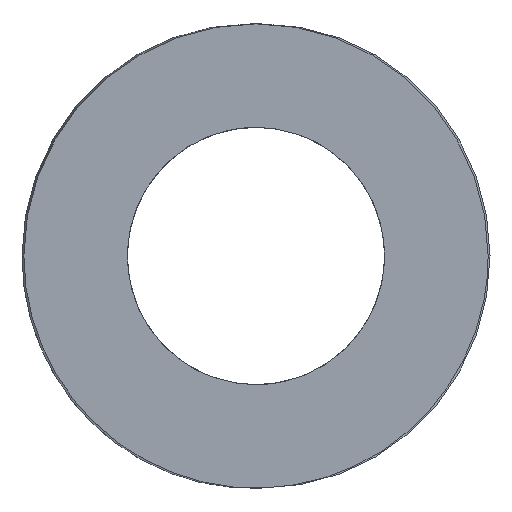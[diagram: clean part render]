
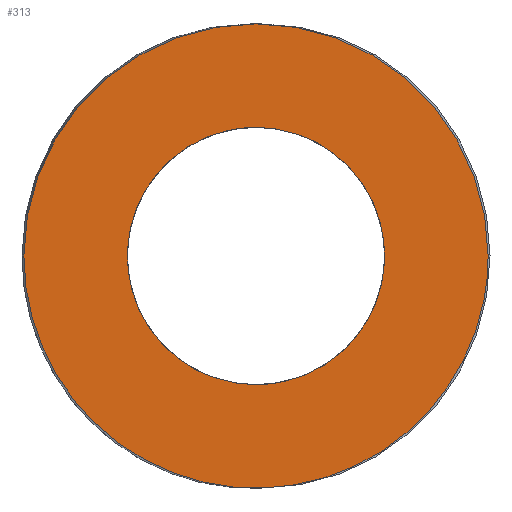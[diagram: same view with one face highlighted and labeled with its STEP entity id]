
A CAD part, left-side view. The second image highlights one B-rep face of the part: STEP entity #313.
In plain terms, the highlighted planar face has unit normal (-1, 0, 0).
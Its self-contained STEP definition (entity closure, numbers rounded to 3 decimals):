
#63=CARTESIAN_POINT('Vertex',(0.,9.2,0.)) ;
#89=CARTESIAN_POINT('Vertex',(0.,-9.2,0.)) ;
#93=CARTESIAN_POINT('Control Point',(0.,9.2,0.)) ;
#94=CARTESIAN_POINT('Control Point',(0.,9.2,-1.445)) ;
#95=CARTESIAN_POINT('Control Point',(0.,8.916,-2.89)) ;
#96=CARTESIAN_POINT('Control Point',(0.,8.348,-4.261)) ;
#97=CARTESIAN_POINT('Control Point',(0.,6.706,-6.706)) ;
#98=CARTESIAN_POINT('Control Point',(0.,4.261,-8.348)) ;
#99=CARTESIAN_POINT('Control Point',(0.,2.89,-8.916)) ;
#100=CARTESIAN_POINT('Control Point',(0.,0.,-9.484)) ;
#101=CARTESIAN_POINT('Control Point',(0.,-2.89,-8.916)) ;
#102=CARTESIAN_POINT('Control Point',(0.,-4.261,-8.348)) ;
#103=CARTESIAN_POINT('Control Point',(0.,-6.706,-6.706)) ;
#104=CARTESIAN_POINT('Control Point',(0.,-8.348,-4.261)) ;
#105=CARTESIAN_POINT('Control Point',(0.,-8.916,-2.89)) ;
#106=CARTESIAN_POINT('Control Point',(0.,-9.2,-1.445)) ;
#107=CARTESIAN_POINT('Control Point',(0.,-9.2,0.)) ;
#121=CARTESIAN_POINT('Axis2P3D Location',(0.,0.,0.)) ;
#250=CARTESIAN_POINT('Axis2P3D Location',(0.,4.6,0.)) ;
#260=CARTESIAN_POINT('Control Point',(0.,0.,-5.1)) ;
#261=CARTESIAN_POINT('Control Point',(0.,0.553,-5.1)) ;
#262=CARTESIAN_POINT('Control Point',(0.,1.106,-5.025)) ;
#263=CARTESIAN_POINT('Control Point',(0.,1.646,-4.875)) ;
#264=CARTESIAN_POINT('Control Point',(0.,2.671,-4.432)) ;
#265=CARTESIAN_POINT('Control Point',(0.,3.541,-3.733)) ;
#266=CARTESIAN_POINT('Control Point',(0.,3.926,-3.326)) ;
#267=CARTESIAN_POINT('Control Point',(0.,4.575,-2.418)) ;
#268=CARTESIAN_POINT('Control Point',(0.,4.96,-1.37)) ;
#269=CARTESIAN_POINT('Control Point',(0.,5.079,-0.822)) ;
#270=CARTESIAN_POINT('Control Point',(0.,5.167,0.291)) ;
#271=CARTESIAN_POINT('Control Point',(0.,4.955,1.387)) ;
#272=CARTESIAN_POINT('Control Point',(0.,4.775,1.917)) ;
#273=CARTESIAN_POINT('Control Point',(0.,4.275,2.916)) ;
#274=CARTESIAN_POINT('Control Point',(0.,3.528,3.745)) ;
#275=CARTESIAN_POINT('Control Point',(0.,3.1,4.106)) ;
#276=CARTESIAN_POINT('Control Point',(0.,2.255,4.642)) ;
#277=CARTESIAN_POINT('Control Point',(0.,1.309,4.959)) ;
#278=CARTESIAN_POINT('Control Point',(0.,0.877,5.053)) ;
#279=CARTESIAN_POINT('Control Point',(0.,0.439,5.1)) ;
#280=CARTESIAN_POINT('Control Point',(0.,0.,5.1)) ;
#281=CARTESIAN_POINT('Vertex',(0.,0.,-5.1)) ;
#283=CARTESIAN_POINT('Vertex',(0.,0.,5.1)) ;
#287=CARTESIAN_POINT('Control Point',(0.,0.,5.1)) ;
#288=CARTESIAN_POINT('Control Point',(0.,-0.553,5.1)) ;
#289=CARTESIAN_POINT('Control Point',(0.,-1.106,5.025)) ;
#290=CARTESIAN_POINT('Control Point',(0.,-1.646,4.875)) ;
#291=CARTESIAN_POINT('Control Point',(0.,-2.671,4.432)) ;
#292=CARTESIAN_POINT('Control Point',(0.,-3.541,3.733)) ;
#293=CARTESIAN_POINT('Control Point',(0.,-3.926,3.326)) ;
#294=CARTESIAN_POINT('Control Point',(0.,-4.575,2.418)) ;
#295=CARTESIAN_POINT('Control Point',(0.,-4.96,1.37)) ;
#296=CARTESIAN_POINT('Control Point',(0.,-5.079,0.822)) ;
#297=CARTESIAN_POINT('Control Point',(0.,-5.167,-0.291)) ;
#298=CARTESIAN_POINT('Control Point',(0.,-4.955,-1.387)) ;
#299=CARTESIAN_POINT('Control Point',(0.,-4.775,-1.917)) ;
#300=CARTESIAN_POINT('Control Point',(0.,-4.275,-2.916)) ;
#301=CARTESIAN_POINT('Control Point',(0.,-3.528,-3.745)) ;
#302=CARTESIAN_POINT('Control Point',(0.,-3.1,-4.106)) ;
#303=CARTESIAN_POINT('Control Point',(0.,-2.255,-4.642)) ;
#304=CARTESIAN_POINT('Control Point',(0.,-1.309,-4.959)) ;
#305=CARTESIAN_POINT('Control Point',(0.,-0.877,-5.053)) ;
#306=CARTESIAN_POINT('Control Point',(0.,-0.439,-5.1)) ;
#307=CARTESIAN_POINT('Control Point',(0.,0.,-5.1)) ;
#122=DIRECTION('Axis2P3D Direction',(1.,-0.,0.)) ;
#251=DIRECTION('Axis2P3D Direction',(-1.,0.,0.)) ;
#252=DIRECTION('Axis2P3D XDirection',(0.,1.,0.)) ;
#123=AXIS2_PLACEMENT_3D('Circle Axis2P3D',#121,#122,$) ;
#253=AXIS2_PLACEMENT_3D('Plane Axis2P3D',#250,#251,#252) ;
#256=ORIENTED_EDGE('',*,*,#108,.T.) ;
#257=ORIENTED_EDGE('',*,*,#125,.T.) ;
#310=ORIENTED_EDGE('',*,*,#285,.T.) ;
#311=ORIENTED_EDGE('',*,*,#308,.T.) ;
#312=FACE_BOUND('',#309,.T.) ;
#313=ADVANCED_FACE('392-B20-032',(#258,#312),#254,.T.) ;
#92=B_SPLINE_CURVE_WITH_KNOTS('',5,(#93,#94,#95,#96,#97,#98,#99,#100,#101,#102,#103,#104,#105,#106,#107),.UNSPECIFIED.,.F.,.U.,(6,3,3,3,6),(-14.451,-7.226,0.,7.226,14.451),.UNSPECIFIED.) ;
#259=B_SPLINE_CURVE_WITH_KNOTS('',5,(#260,#261,#262,#263,#264,#265,#266,#267,#268,#269,#270,#271,#272,#273,#274,#275,#276,#277,#278,#279,#280),.UNSPECIFIED.,.F.,.U.,(6,3,3,3,3,3,6),(0.,3.911,7.823,11.734,15.646,19.557,22.658),.UNSPECIFIED.) ;
#286=B_SPLINE_CURVE_WITH_KNOTS('',5,(#287,#288,#289,#290,#291,#292,#293,#294,#295,#296,#297,#298,#299,#300,#301,#302,#303,#304,#305,#306,#307),.UNSPECIFIED.,.F.,.U.,(6,3,3,3,3,3,6),(0.,3.911,7.823,11.734,15.646,19.557,22.658),.UNSPECIFIED.) ;
#124=CIRCLE('generated circle',#123,9.2) ;
#108=EDGE_CURVE('',#64,#90,#92,.T.) ;
#125=EDGE_CURVE('',#90,#64,#124,.F.) ;
#285=EDGE_CURVE('',#282,#284,#259,.T.) ;
#308=EDGE_CURVE('',#284,#282,#286,.T.) ;
#255=EDGE_LOOP('',(#256,#257)) ;
#309=EDGE_LOOP('',(#310,#311)) ;
#258=FACE_OUTER_BOUND('',#255,.T.) ;
#254=PLANE('Plane',#253) ;
#64=VERTEX_POINT('',#63) ;
#90=VERTEX_POINT('',#89) ;
#282=VERTEX_POINT('',#281) ;
#284=VERTEX_POINT('',#283) ;
